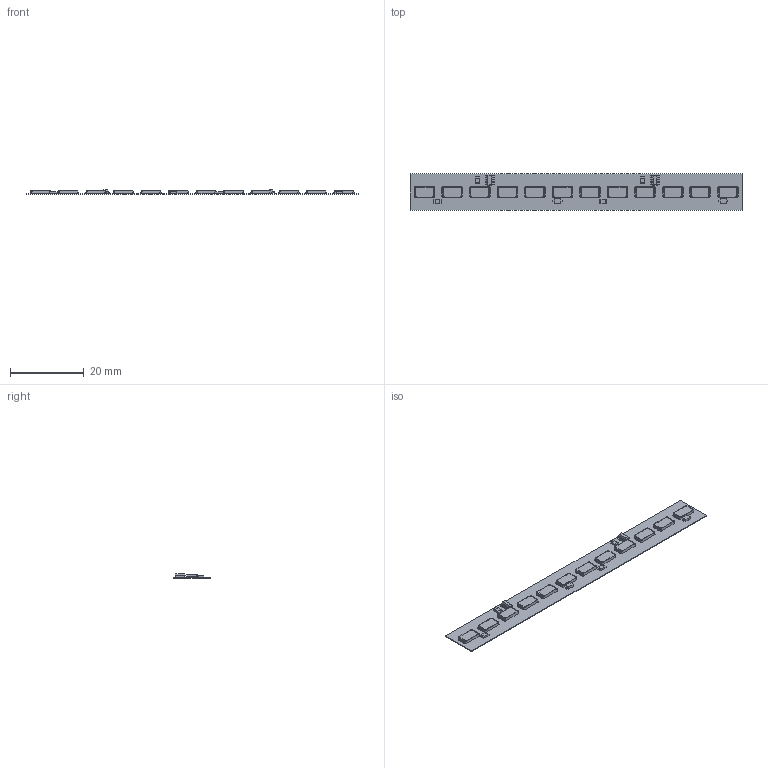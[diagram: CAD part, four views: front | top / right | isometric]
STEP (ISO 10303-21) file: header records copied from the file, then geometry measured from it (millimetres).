
FILE_DESCRIPTION(('STEP AP214'),'1');
FILE_NAME('ILX-E507_Step.stp','2016-10-21T14:45:38',(' '),(' '),'Spatial InterOp 3D',' ',' ');
FILE_SCHEMA(('automotive_design'));
Length unit declared in the file: millimetre
Products named in the file (12): ILX-E507_Step; ILX-E507; SW3dPS-SOT23-6-1; 27677; Component1; Component2; Component3; LxW_JDSx_120613_geometry
Assembly tree (23 placements, depth 3):
  ILX-E507_Step
    ILX-E507
    SW3dPS-SOT23-6-1  x2
    27677
      Component1
      Component2
      Component3
    LxW_JDSx_120613_geometry  x12
    27677
      Component1
      Component2
      Component3
Bounding box: 90 x 10 x 1.29 mm (x, y, z)
Volume: 338.2 mm3; surface area: 2471.4 mm2
Topology: 25 solids, 25 shells, 1610 faces, 4356 edges, 2868 vertices
Faces by surface type: plane 1130, cylinder 480
Entity records: 12166 total; most frequent: CARTESIAN_POINT 1619, ORIENTED_EDGE 1532, DIRECTION 1504, EDGE_CURVE 766, LINE 646, VECTOR 646, VERTEX_POINT 500, AXIS2_PLACEMENT_3D 429
